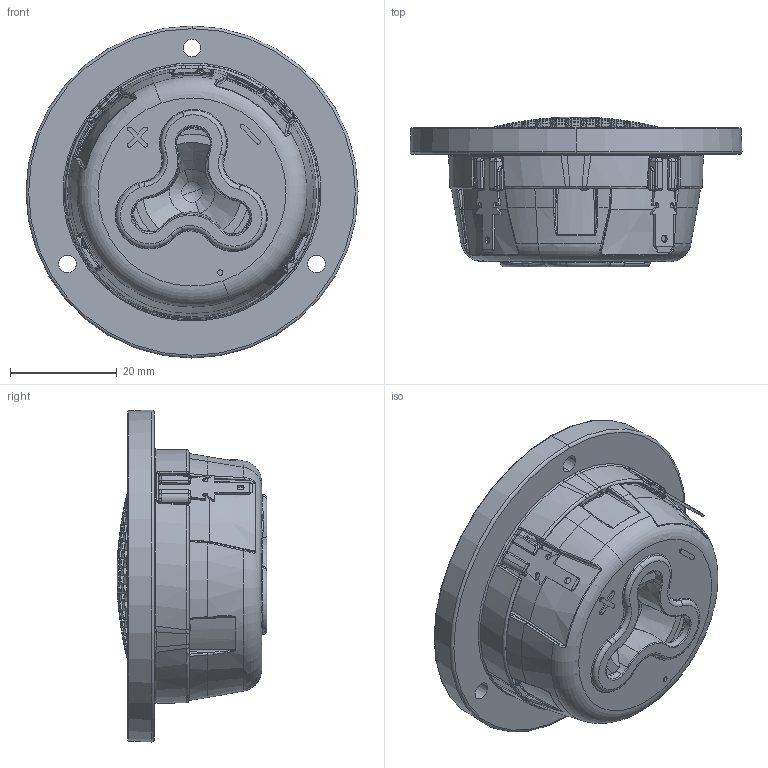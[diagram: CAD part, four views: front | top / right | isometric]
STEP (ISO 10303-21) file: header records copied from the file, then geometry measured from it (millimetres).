
FILE_DESCRIPTION (( 'STEP AP214' ), '1' );
FILE_NAME ('D3004-606005.STEP', '2024-10-30T09:22:33', ( '' ), ( '' ), 'SwSTEP 2.0', 'SolidWorks 2024', '' );
FILE_SCHEMA (( 'AUTOMOTIVE_DESIGN' ));
Length unit declared in the file: millimetre
Products named in the file (1): D3004-606005
Bounding box: 62.21 x 28.08 x 62.21 mm (x, y, z)
Volume: 42810.8 mm3; surface area: 14731.4 mm2
Topology: 1 solids, 3 shells, 2148 faces, 6295 edges, 3992 vertices
Faces by surface type: plane 1146, cylinder 345, torus 261, bspline 255, cone 91, sphere 50
Entity records: 79355 total; most frequent: CARTESIAN_POINT 22276, ORIENTED_EDGE 12496, DIRECTION 12262, EDGE_CURVE 6248, AXIS2_PLACEMENT_3D 5179, VERTEX_POINT 3992, CIRCLE 3285, EDGE_LOOP 2380
